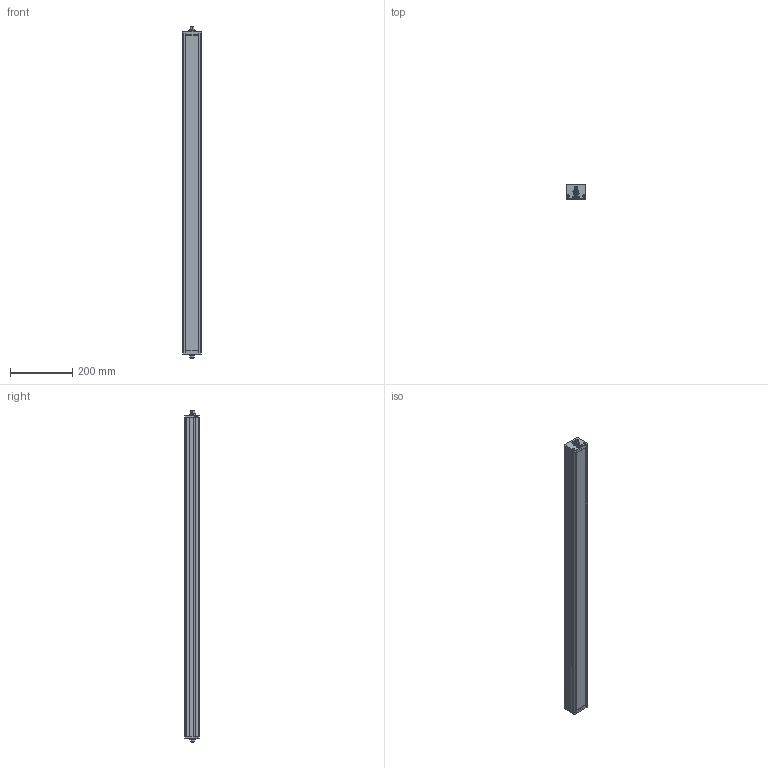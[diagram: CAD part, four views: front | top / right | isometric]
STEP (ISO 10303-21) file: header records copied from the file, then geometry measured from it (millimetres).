
FILE_DESCRIPTION (( 'STEP AP214' ), '1' );
FILE_NAME ('EFFI-FLEX-LG-1000-ZZZ-WW-PP-CHAIN.STEP', '2021-05-27T15:04:22', ( '' ), ( '' ), 'SwSTEP 2.0', 'SolidWorks 2021', '' );
FILE_SCHEMA (( 'AUTOMOTIVE_DESIGN' ));
Length unit declared in the file: millimetre
Products named in the file (7): 000104; 018003; 017964; 001111; 017772B123; ECROU M16x1.5; EFFI-FLEX-LG-1000-ZZZ-WW-PP-CHAIN
Assembly tree (13 placements, depth 2):
  EFFI-FLEX-LG-1000-ZZZ-WW-PP-CHAIN
    017772B123
    017964  x2
    000104
    018003  x7
    001111
    ECROU M16x1.5
Bounding box: 60.01 x 47.12 x 1064 mm (x, y, z)
Volume: 2526786.5 mm3; surface area: 308146.5 mm2
Topology: 15 solids, 15 shells, 1939 faces, 4910 edges, 3104 vertices
Faces by surface type: plane 925, cylinder 514, bspline 210, cone 130, torus 110, sphere 50
Entity records: 47411 total; most frequent: CARTESIAN_POINT 13668, ORIENTED_EDGE 6484, DIRECTION 5772, EDGE_CURVE 3242, VERTEX_POINT 2106, AXIS2_PLACEMENT_3D 1956, VECTOR 1860, LINE 1860
